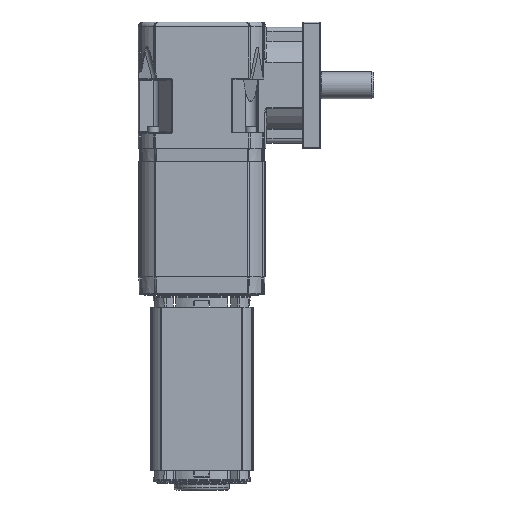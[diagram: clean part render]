
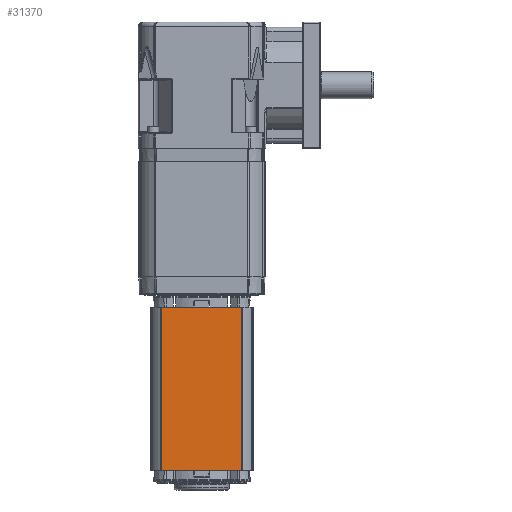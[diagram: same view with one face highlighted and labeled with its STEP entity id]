
A CAD part, front view. The second image highlights one B-rep face of the part: STEP entity #31370.
In plain terms, the highlighted planar face has unit normal (0, -1, 0).
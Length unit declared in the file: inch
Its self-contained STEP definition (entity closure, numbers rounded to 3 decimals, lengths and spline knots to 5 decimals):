
#2871 = EDGE_CURVE ( 'NONE', #51654, #20530, #71426, .T. ) ;
#4003 = ORIENTED_EDGE ( 'NONE', *, *, #14114, .F. ) ;
#4714 = CARTESIAN_POINT ( 'NONE',  ( 1.1275, -1.442, -6.233 ) ) ;
#4935 = DIRECTION ( 'NONE',  ( 0., 0., -1. ) ) ;
#8041 = CARTESIAN_POINT ( 'NONE',  ( -1.1275, -1.442, -10.816 ) ) ;
#8210 = VECTOR ( 'NONE', #61082, 39.37008 ) ;
#8723 = EDGE_CURVE ( 'NONE', #35793, #20530, #41850, .T. ) ;
#11034 = ORIENTED_EDGE ( 'NONE', *, *, #14248, .T. ) ;
#11214 = FACE_OUTER_BOUND ( 'NONE', #48793, .T. ) ;
#14114 = EDGE_CURVE ( 'NONE', #51654, #70953, #32227, .T. ) ;
#14248 = EDGE_CURVE ( 'NONE', #35793, #70953, #37731, .T. ) ;
#19960 = DIRECTION ( 'NONE',  ( 0., -1., 0. ) ) ;
#20530 = VERTEX_POINT ( 'NONE', #4714 ) ;
#21823 = VECTOR ( 'NONE', #4935, 39.37008 ) ;
#25065 = AXIS2_PLACEMENT_3D ( 'NONE', #55608, #19960, #61620 ) ;
#25766 = PLANE ( 'NONE',  #25065 ) ;
#29562 = DIRECTION ( 'NONE',  ( 1., 0., 0. ) ) ;
#31370 = ADVANCED_FACE ( 'NONE', ( #11214 ), #25766, .T. ) ;
#32205 = ORIENTED_EDGE ( 'NONE', *, *, #8723, .F. ) ;
#32227 = LINE ( 'NONE', #38577, #63786 ) ;
#34660 = CARTESIAN_POINT ( 'NONE',  ( -1.1275, -1.442, -10.951 ) ) ;
#35793 = VERTEX_POINT ( 'NONE', #52398 ) ;
#37731 = LINE ( 'NONE', #34660, #21823 ) ;
#38577 = CARTESIAN_POINT ( 'NONE',  ( 1.1275, -1.442, -10.816 ) ) ;
#39938 = VECTOR ( 'NONE', #29562, 39.37008 ) ;
#41850 = LINE ( 'NONE', #43103, #39938 ) ;
#42832 = CARTESIAN_POINT ( 'NONE',  ( 1.1275, -1.442, -10.816 ) ) ;
#43103 = CARTESIAN_POINT ( 'NONE',  ( -1.1475, -1.442, -6.233 ) ) ;
#48793 = EDGE_LOOP ( 'NONE', ( #11034, #4003, #64781, #32205 ) ) ;
#51316 = CARTESIAN_POINT ( 'NONE',  ( 1.1275, -1.442, -10.951 ) ) ;
#51654 = VERTEX_POINT ( 'NONE', #42832 ) ;
#52398 = CARTESIAN_POINT ( 'NONE',  ( -1.1275, -1.442, -6.233 ) ) ;
#55608 = CARTESIAN_POINT ( 'NONE',  ( -1.1475, -1.442, -10.951 ) ) ;
#61082 = DIRECTION ( 'NONE',  ( 0., 0., 1. ) ) ;
#61620 = DIRECTION ( 'NONE',  ( 1., 0., 0. ) ) ;
#63786 = VECTOR ( 'NONE', #74016, 39.37008 ) ;
#64781 = ORIENTED_EDGE ( 'NONE', *, *, #2871, .T. ) ;
#70953 = VERTEX_POINT ( 'NONE', #8041 ) ;
#71426 = LINE ( 'NONE', #51316, #8210 ) ;
#74016 = DIRECTION ( 'NONE',  ( -1., 0., 0. ) ) ;
